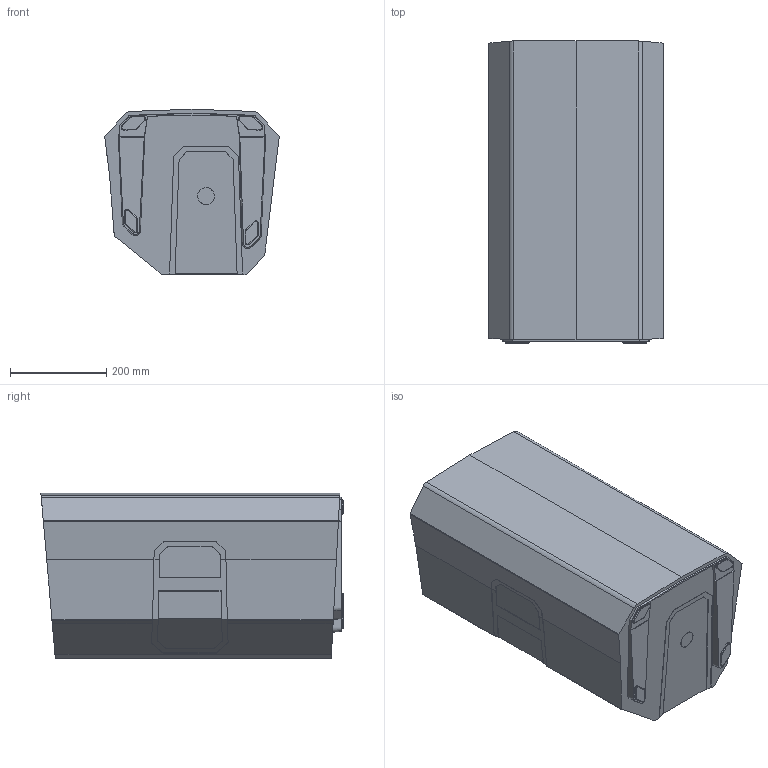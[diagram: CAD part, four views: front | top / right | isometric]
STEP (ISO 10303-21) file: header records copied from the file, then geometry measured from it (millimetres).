
FILE_DESCRIPTION (( 'STEP AP203' ), '1' );
FILE_NAME ('ELX200-12P_SIMPLIFIED.STEP', '2018-02-21T20:48:48', ( '' ), ( '' ), 'SwSTEP 2.0', 'SolidWorks 2016', '' );
FILE_SCHEMA (( 'CONFIG_CONTROL_DESIGN' ));
Length unit declared in the file: millimetre
Products named in the file (2): ELX200-12P_SIMPLIFIED
Bounding box: 362.57 x 628.22 x 344.02 mm (x, y, z)
Volume: 64333475 mm3; surface area: 970071.7 mm2
Topology: 1 solids, 1 shells, 272 faces, 750 edges, 490 vertices
Faces by surface type: plane 159, cylinder 53, bspline 40, torus 20
Entity records: 9282 total; most frequent: CARTESIAN_POINT 2558, ORIENTED_EDGE 1500, DIRECTION 1212, EDGE_CURVE 750, LINE 524, VECTOR 524, VERTEX_POINT 490, AXIS2_PLACEMENT_3D 344
